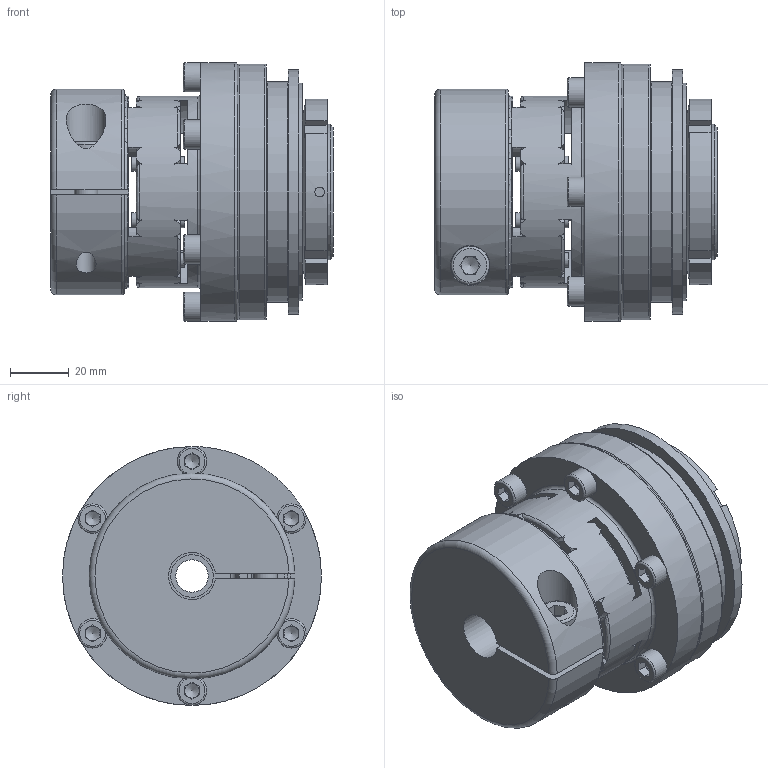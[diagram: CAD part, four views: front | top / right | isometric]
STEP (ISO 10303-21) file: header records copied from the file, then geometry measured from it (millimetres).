
FILE_DESCRIPTION( ( 'Unknown' ), '1' );
FILE_NAME( 'F:/JAKOB-STEP+IGES-Dateien/STEP-Dateien/SKW-EK/SKW-EK 60.stp', 'Unknown', ( 'Unknown' ), ( 'Unknown' ), 'PSStep 10.1', 'Unknown', ' ' );
FILE_SCHEMA( ( 'AUTOMOTIVE_DESIGN { 1 0 10303 214 1 1 1 1 }' ) );
Length unit declared in the file: millimetre
Products named in the file (1): KT101732
Bounding box: 96 x 88 x 88 mm (x, y, z)
Volume: 348662.4 mm3; surface area: 84228.8 mm2
Topology: 1 solids, 11 shells, 475 faces, 1339 edges, 861 vertices
Faces by surface type: plane 199, cylinder 124, torus 74, cone 63, sphere 15
Full cylindrical faces by diameter (mm): 2 x2, 3.3 x3, 5 x14, 6 x6, 6.4 x6, 6.8 x1, 8 x1, 8.6 x1, 10 x6, 11 x1, 13 x1, 13.5 x1, 14.5 x1, 30 x2, 40.5 x1, 42.5 x1, 44.8 x1, 45 x2, 46 x2, 46.5 x1, 52.3 x2, 60.8 x2, 65 x1, 68 x3, 72.6 x2, 74 x1, 75 x1, 83 x1, 87 x1, 88 x1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
Entity records: 19992 total; most frequent: CARTESIAN_POINT 4976, DIRECTION 2316, ORIENTED_EDGE 2230, EDGE_CURVE 1115, AXIS2_PLACEMENT_3D 989, VERTEX_POINT 771, EDGE_LOOP 667, FACE_OUTER_BOUND 554
